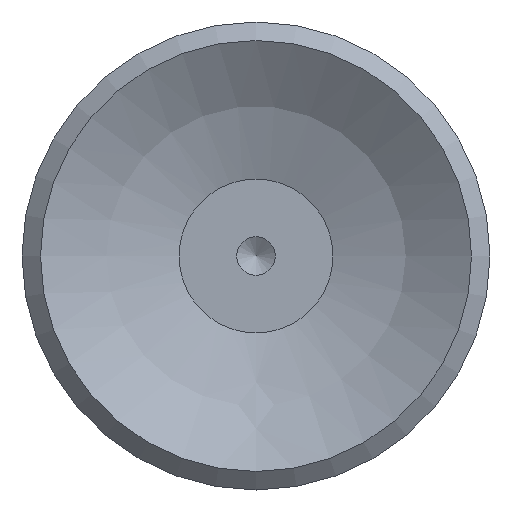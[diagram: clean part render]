
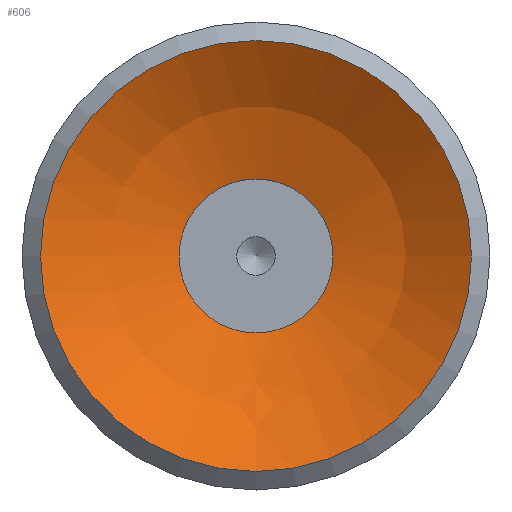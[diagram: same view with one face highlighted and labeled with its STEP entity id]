
A CAD part, front view. The second image highlights one B-rep face of the part: STEP entity #606.
In plain terms, the highlighted spherical face has radius 11.5 mm.
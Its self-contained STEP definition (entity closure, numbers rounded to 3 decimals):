
#606=ADVANCED_FACE('',(#1019,#1020),#1021,.F.);
#1019=FACE_OUTER_BOUND('',#1512,.T.);
#1020=FACE_OUTER_BOUND('',#1513,.T.);
#1021=SPHERICAL_SURFACE('',#1514,11.5);
#1512=EDGE_LOOP('',(#2711));
#1513=EDGE_LOOP('',(#2712));
#1514=AXIS2_PLACEMENT_3D('',#2713,#2714,#2715);
#2711=ORIENTED_EDGE('',*,*,#3446,.T.);
#2712=ORIENTED_EDGE('',*,*,#3447,.F.);
#2713=CARTESIAN_POINT('',(0.001,9.494,-22.735));
#2714=DIRECTION('',(0.0,0.,-1.0));
#2715=DIRECTION('',(1.0,0.0,0.0));
#3446=EDGE_CURVE('',#4118,#4118,#4119,.T.);
#3447=EDGE_CURVE('',#4120,#4120,#4121,.T.);
#4118=VERTEX_POINT('',#5883);
#4119=CIRCLE('',#5884,7.0);
#4120=VERTEX_POINT('',#5885);
#4121=CIRCLE('',#5886,2.5);
#5883=CARTESIAN_POINT('',(0.001,16.494,-13.611));
#5884=AXIS2_PLACEMENT_3D('',#6538,#6539,#6540);
#5885=CARTESIAN_POINT('',(0.001,11.994,-11.51));
#5886=AXIS2_PLACEMENT_3D('',#6541,#6542,#6543);
#6538=CARTESIAN_POINT('',(0.001,9.494,-13.611));
#6539=DIRECTION('',(0.0,0.,-1.0));
#6540=DIRECTION('',(0.0,1.0,0.));
#6541=CARTESIAN_POINT('',(0.001,9.494,-11.51));
#6542=DIRECTION('',(0.0,0.,-1.0));
#6543=DIRECTION('',(0.0,1.0,0.));
